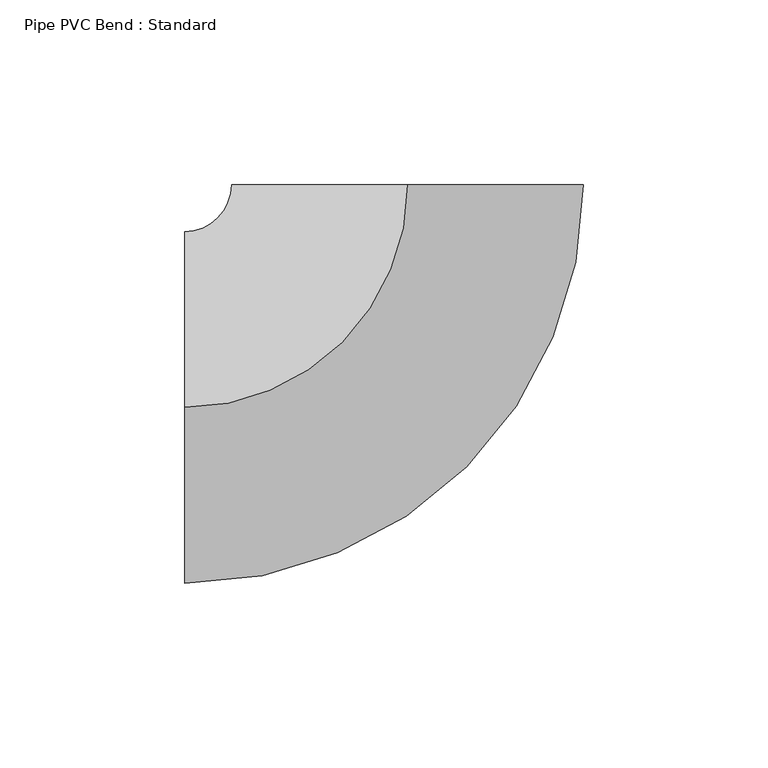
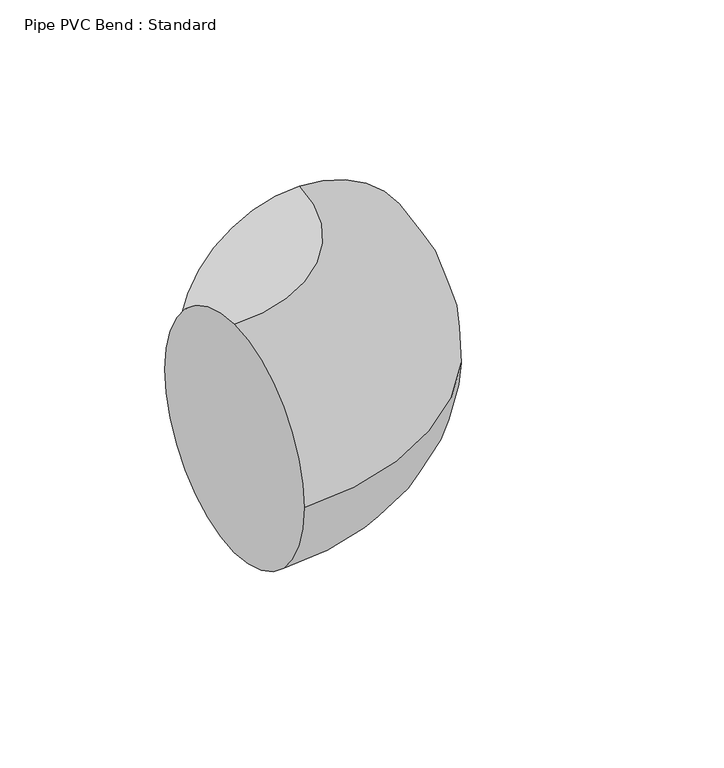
"""IFC4 building model written with IfcOpenShell, lengths in millimetres: pipe fitting geometry, Pipe PVC Bend : Standard."""

from ifc_helpers import new_model, si_unit, point, frame, origin, place, context, project, spatial, circle_curve, ellipse_curve, trimmed, source, transform, mapped, element, save
from ifc_brep_helpers import plane_surface, revolved_surface, advanced_brep


def pipe_pvc_bend_standard_1e05a426(model_context):
    return source(origin(), model_context, "Body", "AdvancedBrep", [
        advanced_brep(
        [(-60.3184081, 0.0, 47.625), (-60.3184081, 47.625, 0.0), (-60.3184081, 0.0, -47.625), (-60.3184081, -47.625, 0.0), (0.0065915, 60.3184078, 47.625), (47.6315912, 60.3132034, 0.0), (0.0065915, 60.3184078, -47.625), (-47.6184082, 60.3236122, 0.0)],
        [
            (0, 1, circle_curve(frame((-60.3184081, 0.0, 0.0), z_axis=(-1.0, 0.0, 0.0), x_axis=(0.0, 1.0, 0.0)), 47.625)),
            (1, 2, circle_curve(frame((-60.3184081, 0.0, 0.0), z_axis=(-1.0, 0.0, 0.0), x_axis=(0.0, 1.0, 0.0)), 47.625)),
            (2, 3, circle_curve(frame((-60.3184081, 0.0, 0.0), z_axis=(-1.0, 0.0, 0.0), x_axis=(0.0, 1.0, 0.0)), 47.625)),
            (3, 0, circle_curve(frame((-60.3184081, 0.0, 0.0), z_axis=(-1.0, 0.0, 0.0), x_axis=(0.0, 1.0, 0.0)), 47.625)),
            (4, 5, circle_curve(frame((0.0065915, 60.3184078, 0.0), z_axis=(0.00010927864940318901, 0.9999999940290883, 0.0), x_axis=(-0.9999999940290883, 0.00010927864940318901, 0.0)), 47.625)),
            (5, 6, circle_curve(frame((0.0065915, 60.3184078, 0.0), z_axis=(0.00010927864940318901, 0.9999999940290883, 0.0), x_axis=(-0.9999999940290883, 0.00010927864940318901, 0.0)), 47.625)),
            (6, 7, circle_curve(frame((0.0065915, 60.3184078, 0.0), z_axis=(0.00010927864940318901, 0.9999999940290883, 0.0), x_axis=(-0.9999999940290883, 0.00010927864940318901, 0.0)), 47.625)),
            (7, 4, circle_curve(frame((0.0065915, 60.3184078, 0.0), z_axis=(0.00010927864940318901, 0.9999999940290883, 0.0), x_axis=(-0.9999999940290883, 0.00010927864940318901, 0.0)), 47.625)),
            (7, 1, circle_curve(frame((-60.3184081, 60.325, 0.0), z_axis=(0.0, 0.0, -1.0), x_axis=(0.0, -1.0, 0.0)), 12.7)),
            (0, 4, circle_curve(frame((-60.3184081, 60.325, 47.625), z_axis=(0.0, 0.0, 1.0), x_axis=(0.0, -1.0, 0.0)), 60.325)),
            (6, 2, circle_curve(frame((-60.3184081, 60.325, -47.625), z_axis=(0.0, 0.0, -1.0), x_axis=(0.0, -1.0, 0.0)), 60.325)),
            (5, 3, circle_curve(frame((-60.3184081, 60.325, 0.0), z_axis=(0.0, 0.0, -1.0), x_axis=(0.0, -1.0, 0.0)), 107.95)),
        ],
        [
            plane_surface(frame((-60.3184081, 0.0, 0.0), z_axis=(-1.0, 0.0, 0.0), x_axis=(0.0, 0.0, 1.0))),
            plane_surface(frame((0.0065915, 60.3184078, 0.0), z_axis=(0.00010927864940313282, 0.9999999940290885, 0.0), x_axis=(0.0, 0.0, 1.0))),
            revolved_surface(trimmed(ellipse_curve(frame((-60.3184081, 0.0, 0.0), z_axis=(-1.0, 0.0, 0.0), x_axis=(0.0, 1.0, 0.0)), 47.625, 47.625), [point((-60.3184081, 0.0, 47.625))], [point((-60.3184081, 47.625, 0.0))], True, "CARTESIAN"), (-60.3184081, 60.325, 0.0), (0.0, 0.0, 1.0)),
            revolved_surface(trimmed(ellipse_curve(frame((-60.3184081, 0.0, 0.0), z_axis=(-1.0, 0.0, 0.0), x_axis=(0.0, 1.0, 0.0)), 47.625, 47.625), [point((-60.3184081, 47.625, 0.0))], [point((-60.3184081, 0.0, -47.625))], True, "CARTESIAN"), (-60.3184081, 60.325, 0.0), (0.0, 0.0, 1.0)),
            revolved_surface(trimmed(ellipse_curve(frame((-60.3184081, 0.0, 0.0), z_axis=(-1.0, 0.0, 0.0), x_axis=(0.0, 1.0, 0.0)), 47.625, 47.625), [point((-60.3184081, 0.0, -47.625))], [point((-60.3184081, -47.625, 0.0))], True, "CARTESIAN"), (-60.3184081, 60.325, 0.0), (0.0, 0.0, 1.0)),
            revolved_surface(trimmed(ellipse_curve(frame((-60.3184081, 0.0, 0.0), z_axis=(-1.0, 0.0, 0.0), x_axis=(0.0, 1.0, 0.0)), 47.625, 47.625), [point((-60.3184081, -47.625, 0.0))], [point((-60.3184081, 0.0, 47.625))], True, "CARTESIAN"), (-60.3184081, 60.325, 0.0), (0.0, 0.0, 1.0)),
        ],
        [
            (0, [[1, 2, 3, 4]]),
            (1, [[5, 6, 7, 8]]),
            (2, [[9, -1, 10, -8]]),
            (3, [[11, -2, -9, -7]]),
            (4, [[12, -3, -11, -6]]),
            (5, [[-10, -4, -12, -5]]),
        ],
    ),
        advanced_brep(
        [(-60.3184081, 0.0, 47.625), (-60.3184081, 47.625, 0.0), (-60.3184081, 0.0, -47.625), (-60.3184081, -47.625, 0.0), (0.0065915, 60.3184078, 47.625), (47.6315912, 60.3132034, 0.0), (0.0065915, 60.3184078, -47.625), (-47.6184082, 60.3236122, 0.0)],
        [
            (0, 1, circle_curve(frame((-60.3184081, 0.0, 0.0), z_axis=(-1.0, 0.0, 0.0), x_axis=(0.0, 1.0, 0.0)), 47.625)),
            (1, 2, circle_curve(frame((-60.3184081, 0.0, 0.0), z_axis=(-1.0, 0.0, 0.0), x_axis=(0.0, 1.0, 0.0)), 47.625)),
            (2, 3, circle_curve(frame((-60.3184081, 0.0, 0.0), z_axis=(-1.0, 0.0, 0.0), x_axis=(0.0, 1.0, 0.0)), 47.625)),
            (3, 0, circle_curve(frame((-60.3184081, 0.0, 0.0), z_axis=(-1.0, 0.0, 0.0), x_axis=(0.0, 1.0, 0.0)), 47.625)),
            (4, 5, circle_curve(frame((0.0065915, 60.3184078, 0.0), z_axis=(0.00010927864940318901, 0.9999999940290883, 0.0), x_axis=(-0.9999999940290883, 0.00010927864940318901, 0.0)), 47.625)),
            (5, 6, circle_curve(frame((0.0065915, 60.3184078, 0.0), z_axis=(0.00010927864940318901, 0.9999999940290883, 0.0), x_axis=(-0.9999999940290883, 0.00010927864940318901, 0.0)), 47.625)),
            (6, 7, circle_curve(frame((0.0065915, 60.3184078, 0.0), z_axis=(0.00010927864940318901, 0.9999999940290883, 0.0), x_axis=(-0.9999999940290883, 0.00010927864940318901, 0.0)), 47.625)),
            (7, 4, circle_curve(frame((0.0065915, 60.3184078, 0.0), z_axis=(0.00010927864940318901, 0.9999999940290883, 0.0), x_axis=(-0.9999999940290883, 0.00010927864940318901, 0.0)), 47.625)),
            (7, 1, circle_curve(frame((-60.3184081, 60.325, 0.0), z_axis=(0.0, 0.0, -1.0), x_axis=(0.0, -1.0, 0.0)), 12.7)),
            (0, 4, circle_curve(frame((-60.3184081, 60.325, 47.625), z_axis=(0.0, 0.0, 1.0), x_axis=(0.0, -1.0, 0.0)), 60.325)),
            (6, 2, circle_curve(frame((-60.3184081, 60.325, -47.625), z_axis=(0.0, 0.0, -1.0), x_axis=(0.0, -1.0, 0.0)), 60.325)),
            (5, 3, circle_curve(frame((-60.3184081, 60.325, 0.0), z_axis=(0.0, 0.0, -1.0), x_axis=(0.0, -1.0, 0.0)), 107.95)),
        ],
        [
            plane_surface(frame((-60.3184081, 0.0, 0.0), z_axis=(-1.0, 0.0, 0.0), x_axis=(0.0, 0.0, 1.0))),
            plane_surface(frame((0.0065915, 60.3184078, 0.0), z_axis=(0.00010927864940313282, 0.9999999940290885, 0.0), x_axis=(0.0, 0.0, 1.0))),
            revolved_surface(trimmed(ellipse_curve(frame((-60.3184081, 0.0, 0.0), z_axis=(-1.0, 0.0, 0.0), x_axis=(0.0, 1.0, 0.0)), 47.625, 47.625), [point((-60.3184081, 0.0, 47.625))], [point((-60.3184081, 47.625, 0.0))], True, "CARTESIAN"), (-60.3184081, 60.325, 0.0), (0.0, 0.0, 1.0)),
            revolved_surface(trimmed(ellipse_curve(frame((-60.3184081, 0.0, 0.0), z_axis=(-1.0, 0.0, 0.0), x_axis=(0.0, 1.0, 0.0)), 47.625, 47.625), [point((-60.3184081, 47.625, 0.0))], [point((-60.3184081, 0.0, -47.625))], True, "CARTESIAN"), (-60.3184081, 60.325, 0.0), (0.0, 0.0, 1.0)),
            revolved_surface(trimmed(ellipse_curve(frame((-60.3184081, 0.0, 0.0), z_axis=(-1.0, 0.0, 0.0), x_axis=(0.0, 1.0, 0.0)), 47.625, 47.625), [point((-60.3184081, 0.0, -47.625))], [point((-60.3184081, -47.625, 0.0))], True, "CARTESIAN"), (-60.3184081, 60.325, 0.0), (0.0, 0.0, 1.0)),
            revolved_surface(trimmed(ellipse_curve(frame((-60.3184081, 0.0, 0.0), z_axis=(-1.0, 0.0, 0.0), x_axis=(0.0, 1.0, 0.0)), 47.625, 47.625), [point((-60.3184081, -47.625, 0.0))], [point((-60.3184081, 0.0, 47.625))], True, "CARTESIAN"), (-60.3184081, 60.325, 0.0), (0.0, 0.0, 1.0)),
        ],
        [
            (0, [[1, 2, 3, 4]]),
            (1, [[5, 6, 7, 8]]),
            (2, [[9, -1, 10, -8]]),
            (3, [[11, -2, -9, -7]]),
            (4, [[12, -3, -11, -6]]),
            (5, [[-10, -4, -12, -5]]),
        ],
    ),
    ])


if __name__ == "__main__":
    model = new_model("IFC4")
    model_context = context("Model", 3, world=origin())
    ifc_project = project(units=[si_unit("LENGTHUNIT", "METRE", prefix="MILLI")], contexts=[model_context])
    site = spatial("IfcSite", under=ifc_project)
    building = spatial("IfcBuilding", under=site)
    placement = place(None, origin())
    pipe_pvc_bend_standard_shape = pipe_pvc_bend_standard_1e05a426(model_context)
    element("IfcPipeFitting", 1, ObjectType="Pipe PVC Bend : Standard", at=placement, inside=building, context=model_context, shape_type="MappedRepresentation", body=[
        mapped(pipe_pvc_bend_standard_shape, transform((0.0, 0.0, 0.0), x_axis=(1.0, 0.0, 0.0), y_axis=(0.0, 1.0, 0.0), z_axis=(0.0, 0.0, 1.0))),
    ])
    save(model, "model.ifc")
